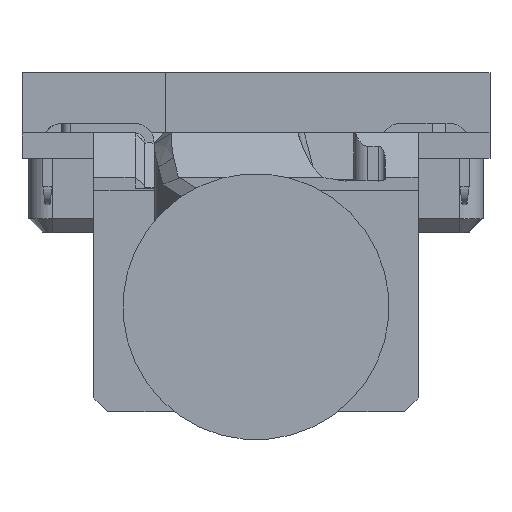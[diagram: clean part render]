
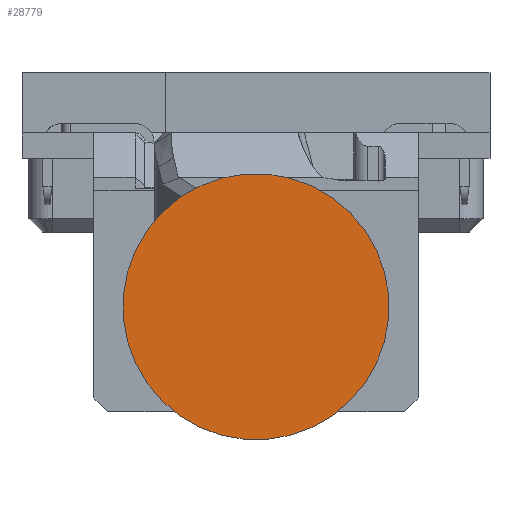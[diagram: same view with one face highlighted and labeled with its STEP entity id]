
A CAD part, front view. The second image highlights one B-rep face of the part: STEP entity #28779.
In plain terms, the highlighted planar face has unit normal (0, -1, 0) as drawn and (1, 0, 0) by its records, which use the part's own axes.
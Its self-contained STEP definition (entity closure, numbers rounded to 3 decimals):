
#28098=CARTESIAN_POINT('',(16.396,2.85,-2.85));
#28099=DIRECTION('',(1.,0.,0.));
#28100=DIRECTION('',(0.,0.,-1.));
#28101=AXIS2_PLACEMENT_3D('',#28098,#28099,#28100);
#28103=CARTESIAN_POINT('',(16.396,2.85,-2.85));
#28104=DIRECTION('',(1.,0.,0.));
#28105=DIRECTION('',(0.,0.,1.));
#28106=AXIS2_PLACEMENT_3D('',#28103,#28104,#28105);
#28212=CARTESIAN_POINT('',(16.396,2.85,-5.722));
#28214=VERTEX_POINT('',#28212);
#28268=CARTESIAN_POINT('',(16.396,2.85,0.022));
#28269=VERTEX_POINT('',#28268);
#28770=CARTESIAN_POINT('',(16.396,6.855,-4.198));
#28771=DIRECTION('',(1.,0.,0.));
#28772=DIRECTION('',(0.,0.,-1.));
#28773=AXIS2_PLACEMENT_3D('',#28770,#28771,#28772);
#28774=PLANE('',#28773);
#28775=ORIENTED_EDGE('',*,*,#28764,.F.);
#28776=ORIENTED_EDGE('',*,*,#28747,.F.);
#28777=EDGE_LOOP('',(#28775,#28776));
#28778=FACE_OUTER_BOUND('',#28777,.F.);
#28102=CIRCLE('',#28101,2.872);
#28107=CIRCLE('',#28106,2.872);
#28747=EDGE_CURVE('',#28269,#28214,#28107,.T.);
#28764=EDGE_CURVE('',#28214,#28269,#28102,.T.);
#28779=ADVANCED_FACE('',(#28778),#28774,.T.);
